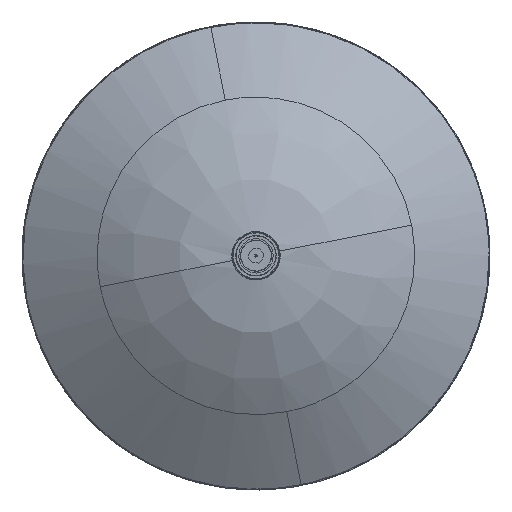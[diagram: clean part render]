
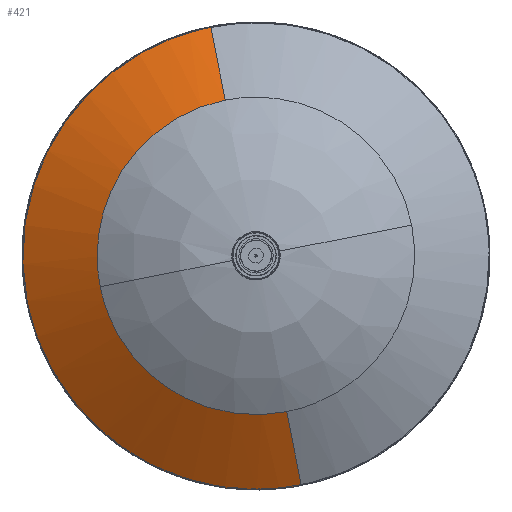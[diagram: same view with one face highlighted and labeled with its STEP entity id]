
A CAD part, top view. The second image highlights one B-rep face of the part: STEP entity #421.
In plain terms, the highlighted free-form (B-spline) face has degree [2, 1] with [5, 2] control points.
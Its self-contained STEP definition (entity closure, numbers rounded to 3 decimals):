
#421=ADVANCED_FACE('',(#622),#3392,.T.);
#622=FACE_OUTER_BOUND('',#851,.T.);
#851=EDGE_LOOP('',(#1813,#1814,#1815,#1816,#1817,#1818));
#1813=ORIENTED_EDGE('',*,*,#2411,.T.);
#1814=ORIENTED_EDGE('',*,*,#2385,.F.);
#1815=ORIENTED_EDGE('',*,*,#2390,.T.);
#1816=ORIENTED_EDGE('',*,*,#2392,.F.);
#1817=ORIENTED_EDGE('',*,*,#2389,.T.);
#1818=ORIENTED_EDGE('',*,*,#2412,.F.);
#2385=EDGE_CURVE('',#3293,#3309,#2777,.T.);
#2389=EDGE_CURVE('',#3295,#3283,#2781,.T.);
#2390=EDGE_CURVE('',#3293,#3296,#2782,.T.);
#2392=EDGE_CURVE('',#3295,#3296,#2948,.T.);
#2411=EDGE_CURVE('',#3308,#3309,#2961,.T.);
#2412=EDGE_CURVE('',#3308,#3283,#2790,.T.);
#2777=(
BOUNDED_CURVE()
B_SPLINE_CURVE(2,(#10417,#10418,#10419),.UNSPECIFIED.,.F.,.F.)
B_SPLINE_CURVE_WITH_KNOTS((3,3),(0.,454.834),.UNSPECIFIED.)
CURVE()
GEOMETRIC_REPRESENTATION_ITEM()
RATIONAL_B_SPLINE_CURVE((1.,0.707,1.))
REPRESENTATION_ITEM('')
);
#2781=(
BOUNDED_CURVE()
B_SPLINE_CURVE(2,(#10431,#10432,#10433),.UNSPECIFIED.,.F.,.F.)
B_SPLINE_CURVE_WITH_KNOTS((3,3),(309.147,618.293),
 .UNSPECIFIED.)
CURVE()
GEOMETRIC_REPRESENTATION_ITEM()
RATIONAL_B_SPLINE_CURVE((1.,0.707,1.))
REPRESENTATION_ITEM('')
);
#2782=(
BOUNDED_CURVE()
B_SPLINE_CURVE(2,(#10434,#10435,#10436),.UNSPECIFIED.,.F.,.F.)
B_SPLINE_CURVE_WITH_KNOTS((3,3),(0.,454.834),.UNSPECIFIED.)
CURVE()
GEOMETRIC_REPRESENTATION_ITEM()
RATIONAL_B_SPLINE_CURVE((1.,0.707,1.))
REPRESENTATION_ITEM('')
);
#2790=(
BOUNDED_CURVE()
B_SPLINE_CURVE(2,(#10538,#10539,#10540),.UNSPECIFIED.,.F.,.F.)
B_SPLINE_CURVE_WITH_KNOTS((3,3),(309.147,618.293),
 .UNSPECIFIED.)
CURVE()
GEOMETRIC_REPRESENTATION_ITEM()
RATIONAL_B_SPLINE_CURVE((1.,0.707,1.))
REPRESENTATION_ITEM('')
);
#2948=B_SPLINE_CURVE_WITH_KNOTS('',1,(#10440,#10441),.UNSPECIFIED.,.F.,
 .F.,(2,2),(231.07,339.964),.UNSPECIFIED.);
#2961=B_SPLINE_CURVE_WITH_KNOTS('',1,(#10536,#10537),.UNSPECIFIED.,.F.,
 .F.,(2,2),(231.07,339.964),.UNSPECIFIED.);
#3283=VERTEX_POINT('',#10251);
#3293=VERTEX_POINT('',#10261);
#3295=VERTEX_POINT('',#10263);
#3296=VERTEX_POINT('',#10264);
#3308=VERTEX_POINT('',#10276);
#3309=VERTEX_POINT('',#10277);
#3392=(
BOUNDED_SURFACE()
B_SPLINE_SURFACE(2,1,((#10004,#10005),(#10006,#10007),(#10008,#10009),(#10010,
#10011),(#10012,#10013)),.UNSPECIFIED.,.F.,.F.,.F.)
B_SPLINE_SURFACE_WITH_KNOTS((3,2,3),(2,2),(0.,500.624,1001.248),
(0.,374.189),.UNSPECIFIED.)
GEOMETRIC_REPRESENTATION_ITEM()
RATIONAL_B_SPLINE_SURFACE(((1.,1.),(0.707,0.707),
(1.,1.),(0.707,0.707),(1.,1.)))
REPRESENTATION_ITEM('')
SURFACE()
);
#10004=CARTESIAN_POINT('',(0.,0.,59.961));
#10005=CARTESIAN_POINT('',(0.,-318.707,-136.109));
#10006=CARTESIAN_POINT('',(0.,0.,59.961));
#10007=CARTESIAN_POINT('',(-318.707,-318.707,-136.109));
#10008=CARTESIAN_POINT('',(0.,0.,59.961));
#10009=CARTESIAN_POINT('',(-318.707,0.,-136.109));
#10010=CARTESIAN_POINT('',(0.,0.,59.961));
#10011=CARTESIAN_POINT('',(-318.707,318.707,-136.109));
#10012=CARTESIAN_POINT('',(0.,0.,59.961));
#10013=CARTESIAN_POINT('',(0.,318.707,-136.109));
#10251=CARTESIAN_POINT('',(-196.809,0.,-61.117));
#10261=CARTESIAN_POINT('',(-289.556,0.,-118.175));
#10263=CARTESIAN_POINT('',(0.,-196.809,-61.117));
#10264=CARTESIAN_POINT('',(0.,-289.556,-118.175));
#10276=CARTESIAN_POINT('',(0.,196.809,-61.117));
#10277=CARTESIAN_POINT('',(0.,289.556,-118.175));
#10417=CARTESIAN_POINT('',(-289.556,0.,-118.175));
#10418=CARTESIAN_POINT('',(-289.556,289.556,-118.175));
#10419=CARTESIAN_POINT('',(0.,289.556,-118.175));
#10431=CARTESIAN_POINT('',(0.,-196.809,-61.117));
#10432=CARTESIAN_POINT('',(-196.809,-196.809,-61.117));
#10433=CARTESIAN_POINT('',(-196.809,0.,-61.117));
#10434=CARTESIAN_POINT('',(-289.556,0.,-118.175));
#10435=CARTESIAN_POINT('',(-289.556,-289.556,-118.175));
#10436=CARTESIAN_POINT('',(0.,-289.556,-118.175));
#10440=CARTESIAN_POINT('',(0.,-196.809,-61.117));
#10441=CARTESIAN_POINT('',(0.,-289.556,-118.175));
#10536=CARTESIAN_POINT('',(0.,196.809,-61.117));
#10537=CARTESIAN_POINT('',(0.,289.556,-118.175));
#10538=CARTESIAN_POINT('',(0.,196.809,-61.117));
#10539=CARTESIAN_POINT('',(-196.809,196.809,-61.117));
#10540=CARTESIAN_POINT('',(-196.809,0.,-61.117));
